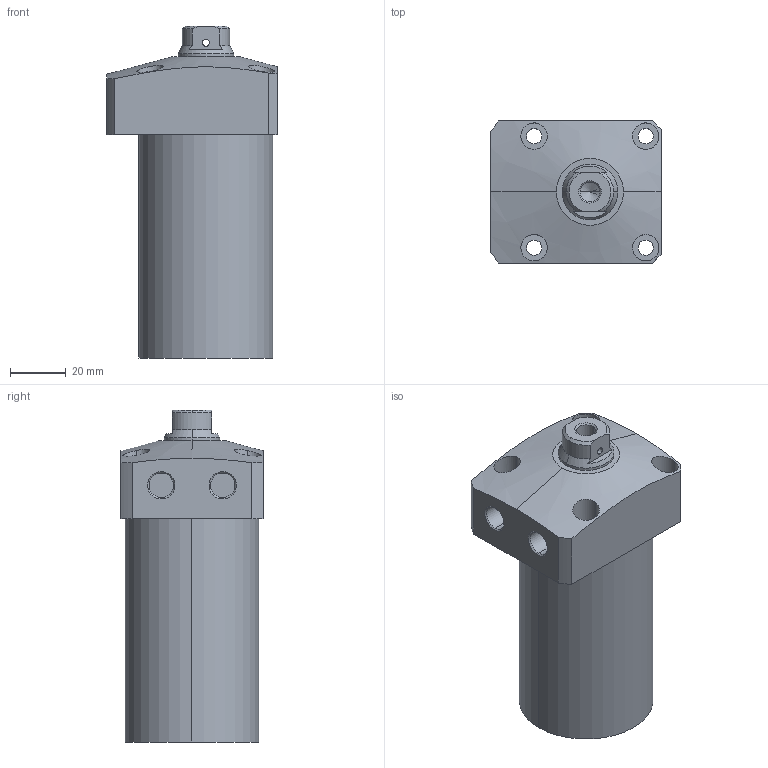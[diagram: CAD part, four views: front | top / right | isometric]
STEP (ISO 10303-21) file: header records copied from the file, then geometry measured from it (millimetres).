
FILE_DESCRIPTION (( 'STEP AP203' ), '1' );
FILE_NAME ('CLL-0480-CB-70.STEP', '2017-05-09T03:16:29', ( '' ), ( '' ), 'SwSTEP 2.0', 'SolidWorks 2015', '' );
FILE_SCHEMA (( 'CONFIG_CONTROL_DESIGN' ));
Length unit declared in the file: millimetre
Products named in the file (1): CLL-0480-CB-70
Bounding box: 61 x 51 x 119 mm (x, y, z)
Volume: 219334.4 mm3; surface area: 26665.5 mm2
Topology: 1 solids, 1 shells, 76 faces, 181 edges, 116 vertices
Faces by surface type: cylinder 39, plane 22, cone 15
Entity records: 2695 total; most frequent: CARTESIAN_POINT 818, DIRECTION 386, ORIENTED_EDGE 358, EDGE_CURVE 179, AXIS2_PLACEMENT_3D 158, VERTEX_POINT 116, EDGE_LOOP 99, CIRCLE 81
